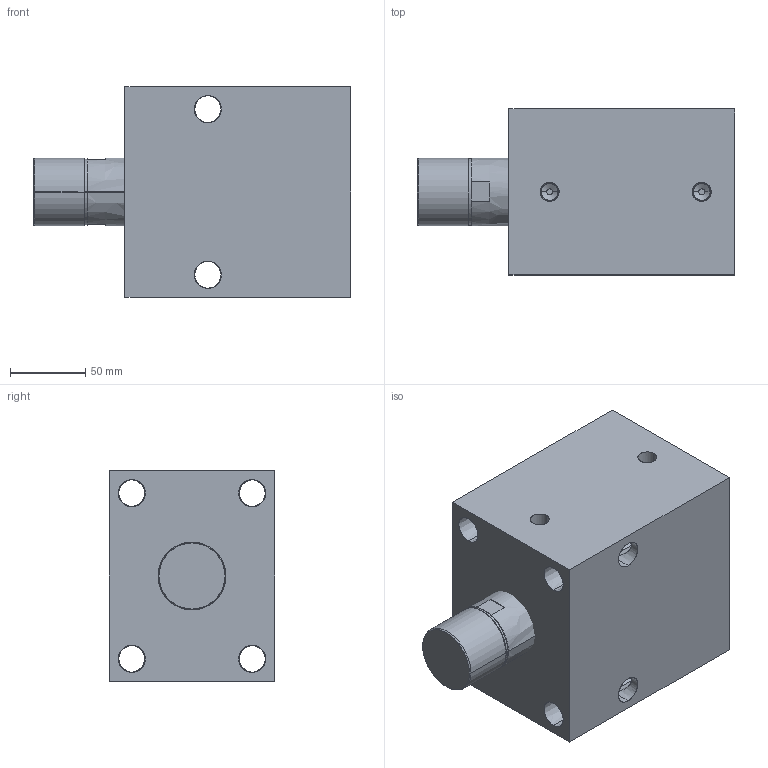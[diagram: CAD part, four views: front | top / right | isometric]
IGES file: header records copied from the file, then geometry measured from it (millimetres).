
Start section: SolidWorks IGES file using analytic representation for surfaces
Global section: file name: C:\Documents and Settings\rajib\Desktop\Rajib\BLOCK CYLINDER HYDRAULIC\0701-0704\IGS 0701-0708\0701.IGS; native system: SolidWorks 2007; preprocessor: SolidWorks 2007; author: rajib; date: 110121.111957; units: millimetre
Bounding box: 211 x 110 x 140 mm (x, y, z)
Surface area: 170501.6 mm2 (no closed solid volume)
Topology: 0 solids, 0 shells, 76 faces, 1856 edges, 1856 vertices
Faces by surface type: revolution 54, bspline 22
